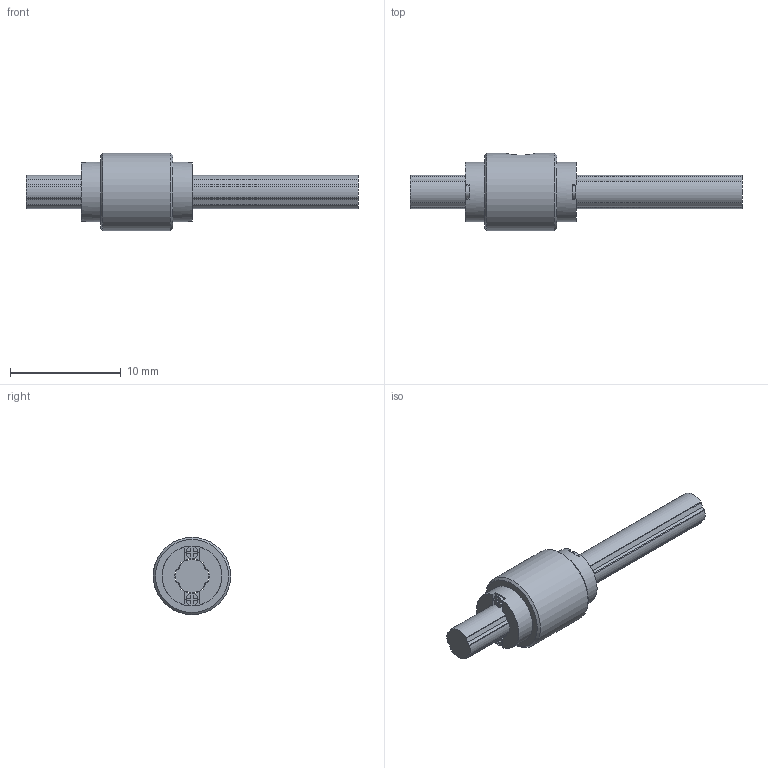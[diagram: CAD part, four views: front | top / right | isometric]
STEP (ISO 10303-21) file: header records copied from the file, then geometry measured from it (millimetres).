
FILE_DESCRIPTION(/* description */ ('STEP AP214'),/* implementation_level */ '2;1');
FILE_NAME(/* name */ 'LT3XD+30L(00)',/* time_stamp */ '2024-09-05T13:53:40+02:00',/* author */ ('License CC BY-ND 4.0'),/* organization */ ('CADENAS'),/* preprocessor_version */ 'ST-DEVELOPER v19.3',/* originating_system */ 'PARTsolutions',/* authorisation */ ' ');
FILE_SCHEMA (('AUTOMOTIVE_DESIGN {1 0 10303 214 3 1 1}'));
Length unit declared in the file: millimetre
Products named in the file (3): LT3XD+30L(00); 1LT3XD 30Shaft; 1LT3XD Cylindar
Assembly tree (2 placements, depth 2):
  LT3XD+30L(00)
    1LT3XD 30Shaft
    1LT3XD Cylindar
Bounding box: 30 x 7 x 7 mm (x, y, z)
Volume: 458.2 mm3; surface area: 665.5 mm2
Topology: 2 solids, 2 shells, 122 faces, 329 edges, 219 vertices
Faces by surface type: plane 84, cylinder 35, cone 3
Full cylindrical faces by diameter (mm): 1.1 x4, 5.4 x2, 7 x1
Entity records: 3840 total; most frequent: CARTESIAN_POINT 670, DIRECTION 650, ORIENTED_EDGE 630, EDGE_CURVE 315, LINE 228, VECTOR 228, VERTEX_POINT 216, AXIS2_PLACEMENT_3D 211
